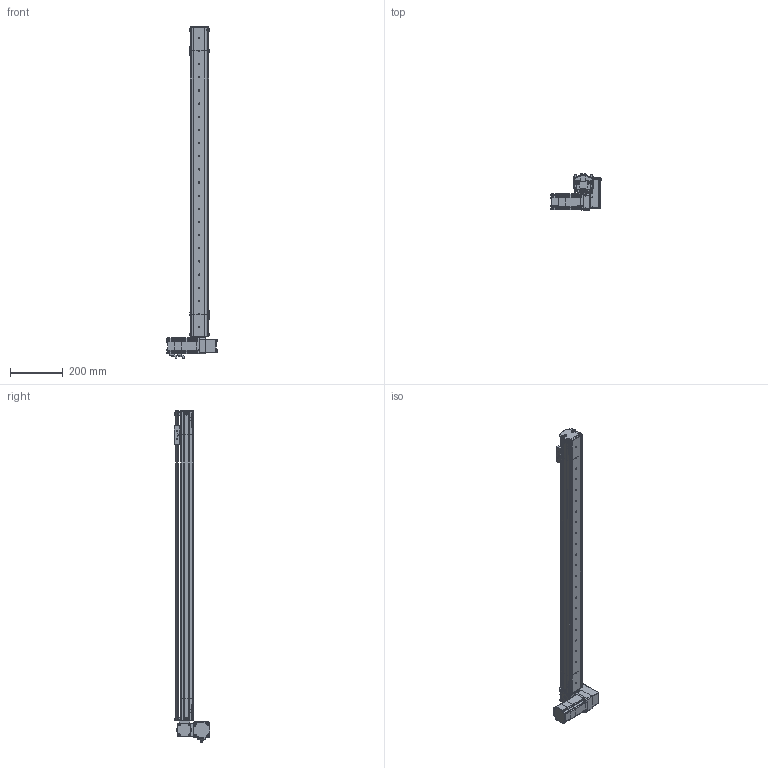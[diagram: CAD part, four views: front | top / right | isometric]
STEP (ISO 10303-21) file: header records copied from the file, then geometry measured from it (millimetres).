
FILE_DESCRIPTION (( 'STEP AP214' ), '1' );
FILE_NAME ('S07 TBN LU S1000.STEP', '2010-06-29T11:49:13', ( 'Conseil Régional Haute-Normandie' ), ( 'Conseil Régional Haute-Normandie' ), 'SwSTEP 2.0', 'SolidWorks 2010', '' );
FILE_SCHEMA (( 'AUTOMOTIVE_DESIGN' ));
Length unit declared in the file: millimetre
Products named in the file (41): P1_Default; Axe 60BLDC_Default; Course C L1000_Default; S07 TBN LU S1000; S07 LU(146)_Default; corp moteur TB(146)_Default; Vis M5 L16-2_Default; P2 90A_Default; plaque de bout LU_Default; vis M5 L16_Default; Chariot; guide; cache t皻e axe_Default; Poulie head_Default; Corp S07 course 1000_Default; Couroie  course 1000_Default; couvercle S07 course 1000 ; cache t皻e_Default; vis M5 L5_Default; Plaque racord_Default; Conecteur 60BLDC_Default; VisM3_Default; Poulie_Default; renvoi LU_Default; couvercle moteur S07 TB; P3 90A_Default; T皻e de poulie_Default; corp tail TB_Default; couroie tail_Default; Couroie t皻e_Default; Pièce5^S07 LU(146); Conecteur2 60BLDC_Default; S07 TB tail (78)_Default; vis M5 L12_Default; plaque de bout_Default; GMB 60 90 310_Default; couvercle tail TB; P4_Default; CHariot_Default; Cvis M5 L30_Default
Assembly tree (80 placements, depth 4):
  S07 TBN LU S1000
    CHariot_Default
      guide
      Chariot
      vis M5 L16_Default  x2
    Course C L1000_Default
      couvercle S07 course 1000 
      Couroie  course 1000_Default
      Corp S07 course 1000_Default
    S07 TB tail (78)_Default
      plaque de bout_Default
      corp tail TB_Default
      vis M5 L12_Default  x10
      couvercle tail TB
      couroie tail_Default
      Poulie_Default
        T皻e de poulie_Default
        Poulie_Default
    S07 LU(146)_Default
      Cvis M5 L30_Default  x2
      cache t皻e_Default  x2
      vis M5 L5_Default  x6
      couvercle moteur S07 TB
      plaque de bout LU_Default
      Vis M5 L16-2_Default  x8
      Plaque racord_Default
      vis M5 L12_Default  x6
      Poulie head_Default
      renvoi LU_Default
      Couroie t皻e_Default
      cache t皻e axe_Default
      GMB 60 90 310_Default
        VisM3_Default  x12
        Axe 60BLDC_Default
        P1_Default
        Conecteur2 60BLDC_Default
        P3 90A_Default
        Conecteur 60BLDC_Default
        P4_Default
        P2 90A_Default
      corp moteur TB(146)_Default
  Pièce5^S07 LU(146)
Bounding box: 190.2 x 134.7 x 1262 mm (x, y, z)
Volume: 2643042.9 mm3; surface area: 1128518.8 mm2
Topology: 102 solids, 102 shells, 3934 faces, 9804 edges, 6333 vertices
Faces by surface type: plane 2234, cylinder 770, bspline 677, cone 125, torus 124, sphere 4
Entity records: 167617 total; most frequent: CARTESIAN_POINT 75265, ORIENTED_EDGE 15520, DIRECTION 12375, EDGE_CURVE 7760, VERTEX_POINT 5121, VECTOR 5057, LINE 5057, AXIS2_PLACEMENT_3D 3659
